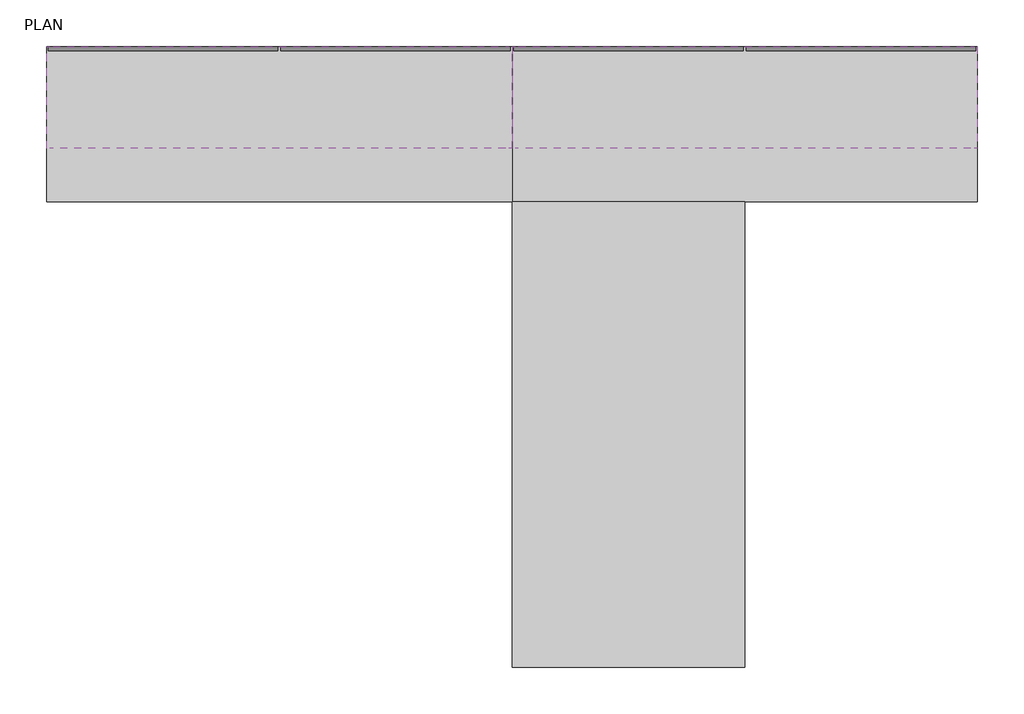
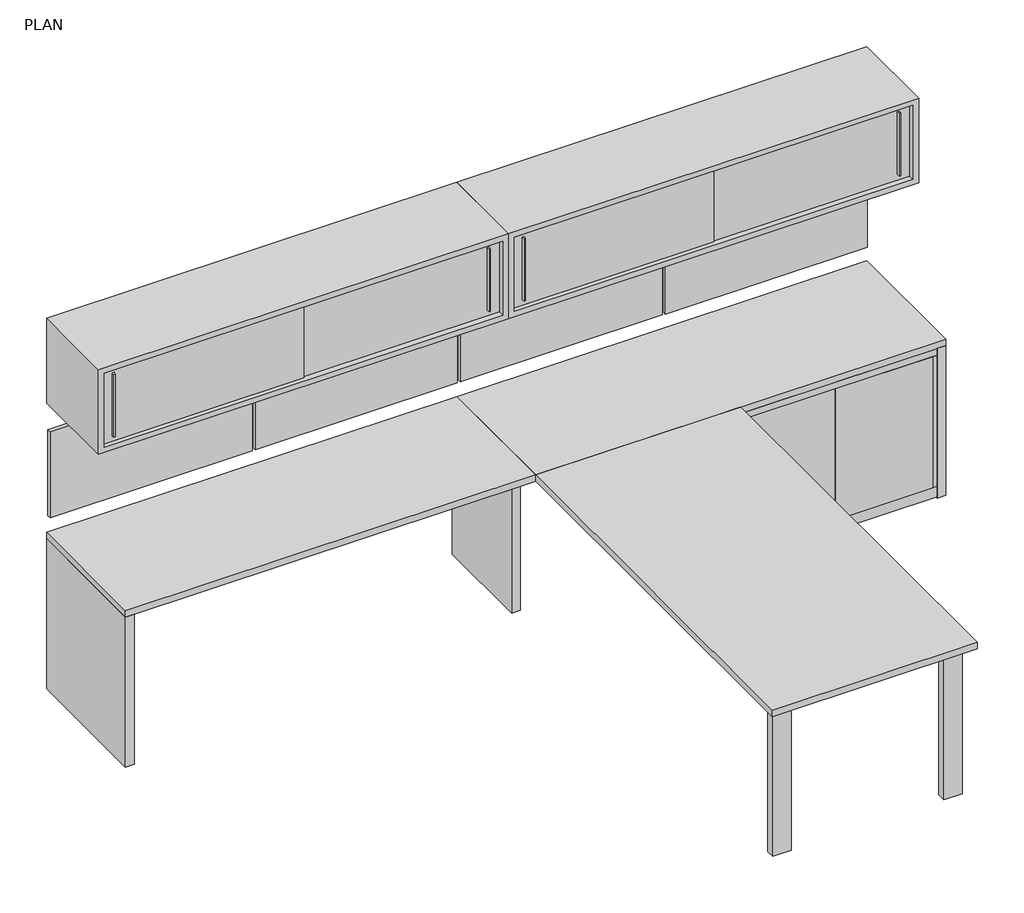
# One storey, incomplete: 11 furniture elements.
"""IFC4 building model written with IfcOpenShell, lengths in millimetres."""

from ifc_helpers import new_model, si_unit, origin, place, context, project, spatial, transform, mapped, element, save
from components import furniture_4db793d8, furniture_580ccd05, furniture_6f7b0d15, furniture_dc22e049, furniture_40356f10, haworth_worksurface_compose_rectangular_8010dbb9, furniture_e126ca14

model = new_model("IFC4")

# Units and contexts
model_context = context("Model", 3, world=origin())
ifc_project = project(units=[si_unit("LENGTHUNIT", "METRE", prefix="MILLI")], contexts=[model_context])

# Site, building, storey
site = spatial("IfcSite", under=ifc_project)
building = spatial("IfcBuilding", under=site)
storey = spatial("IfcBuildingStorey", under=building, Name="PLAN", Elevation=30480.0)

# Furniture
placement = place(None, origin())
furniture_shape = furniture_4db793d8(model_context)
element("IfcFurniture", 1, ObjectType="Haworth_XSeries_StorageCabinet : 18d 36w 39h", at=placement, inside=storey, context=model_context, shape_type="MappedRepresentation", body=[
    mapped(furniture_shape, transform((26603.7225628, -59070.4525493, 30487.9375), x_axis=(1.0, 0.0, 0.0), y_axis=(0.0, 1.0, 0.0), z_axis=(0.0, 0.0, 1.0))),
])
furniture_2_shape = furniture_580ccd05(model_context)
element("IfcFurniture", 2, ObjectType="Haworth_Premise-Panel_Accessories-External_Mount_Special : 16\" x 36\" Tackboard", at=placement, inside=storey, context=model_context, shape_type="MappedRepresentation", body=[
    mapped(furniture_2_shape, transform((23894.5947727, -58924.0806899, 30226.0), x_axis=(1.0, 0.0, 0.0), y_axis=(0.0, 1.0, 0.0), z_axis=(0.0, 0.0, 1.0))),
])
element("IfcFurniture", 3, ObjectType="Haworth_Premise-Panel_Accessories-External_Mount_Special : 16\" x 36\" Tackboard", at=placement, inside=storey, context=model_context, shape_type="MappedRepresentation", body=[
    mapped(furniture_2_shape, transform((24808.9947727, -58924.0806899, 30226.0), x_axis=(1.0, 0.0, 0.0), y_axis=(0.0, 1.0, 0.0), z_axis=(0.0, 0.0, 1.0))),
])
element("IfcFurniture", 4, ObjectType="Haworth_Premise-Panel_Accessories-External_Mount_Special : 16\" x 36\" Tackboard", at=placement, inside=storey, context=model_context, shape_type="MappedRepresentation", body=[
    mapped(furniture_2_shape, transform((25723.3947727, -58924.0806899, 30226.0), x_axis=(1.0, 0.0, 0.0), y_axis=(0.0, 1.0, 0.0), z_axis=(0.0, 0.0, 1.0))),
])
element("IfcFurniture", 5, ObjectType="Haworth_Premise-Panel_Accessories-External_Mount_Special : 16\" x 36\" Tackboard", at=placement, inside=storey, context=model_context, shape_type="MappedRepresentation", body=[
    mapped(furniture_2_shape, transform((26637.7947727, -58924.0806899, 30226.0), x_axis=(1.0, 0.0, 0.0), y_axis=(0.0, 1.0, 0.0), z_axis=(0.0, 0.0, 1.0))),
])
furniture_3_shape = furniture_6f7b0d15(model_context)
element("IfcFurniture", 6, ObjectType="Haworth_Worksurface_Compose-Convergent_Rectangular : 24\" x 72\"", at=placement, inside=storey, context=model_context, shape_type="MappedRepresentation", body=[
    mapped(furniture_3_shape, transform((24354.2350628, -59241.9025493, 30480.0), x_axis=(0.0, -1.0000000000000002, 0.0), y_axis=(1.0000000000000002, 0.0, 0.0), z_axis=(0.0, 0.0, 1.0))),
])
furniture_4_shape = furniture_dc22e049(model_context)
element("IfcFurniture", 7, ObjectType="Haworth_Worksurface_Compose-Convergent_Rectangular : 24\" x 72\"", at=placement, inside=storey, context=model_context, shape_type="MappedRepresentation", body=[
    mapped(furniture_4_shape, transform((26183.0350628, -59241.9025493, 30480.0), x_axis=(0.0, -1.0, 0.0), y_axis=(1.0, 0.0, 0.0), z_axis=(0.0, 0.0, 1.0))),
])
furniture_5_shape = furniture_40356f10(model_context)
element("IfcFurniture", 8, ObjectType="Haworth_Compose-Storage-Overhead : 72\" x 16\" x 16\" - Sliding Door", at=placement, inside=storey, context=model_context, shape_type="MappedRepresentation", body=[
    mapped(furniture_5_shape, transform((24189.1350628, -58937.1025493, 30556.2), x_axis=(1.0, 0.0, 0.0), y_axis=(0.0, 1.0, 0.0), z_axis=(0.0, 0.0, 1.0))),
])
element("IfcFurniture", 9, ObjectType="Haworth_Compose-Storage-Overhead : 72\" x 16\" x 16\" - Sliding Door", at=placement, inside=storey, context=model_context, shape_type="MappedRepresentation", body=[
    mapped(furniture_5_shape, transform((26017.9350628, -58937.1025493, 30556.2), x_axis=(1.0, 0.0, 0.0), y_axis=(0.0, 1.0, 0.0), z_axis=(0.0, 0.0, 1.0))),
])
haworth_worksurface_compose_rectangular_shape = haworth_worksurface_compose_rectangular_8010dbb9(model_context)
element("IfcFurniture", 10, ObjectType="Haworth_Worksurface_Compose-Rectangular : 36'' x 72''", at=placement, inside=storey, context=model_context, shape_type="MappedRepresentation", body=[
    mapped(haworth_worksurface_compose_rectangular_shape, transform((25725.8350628, -60461.1025493, 30480.0), x_axis=(0.0, -1.0, 0.0), y_axis=(1.0, 0.0, 0.0), z_axis=(0.0, 0.0, 1.0))),
])
furniture_6_shape = furniture_e126ca14(model_context)
element("IfcFurniture", 11, ObjectType="Haworth_Worksurface_Support-Panel : 18\" Depth", at=placement, inside=storey, context=model_context, shape_type="MappedRepresentation", body=[
    mapped(furniture_6_shape, transform((25052.7350628, -59118.3490728, 30480.0), x_axis=(1.0, 0.0, 0.0), y_axis=(0.0, 1.0, 0.0), z_axis=(0.0, 0.0, 1.0))),
])

save(model, "model.ifc")
